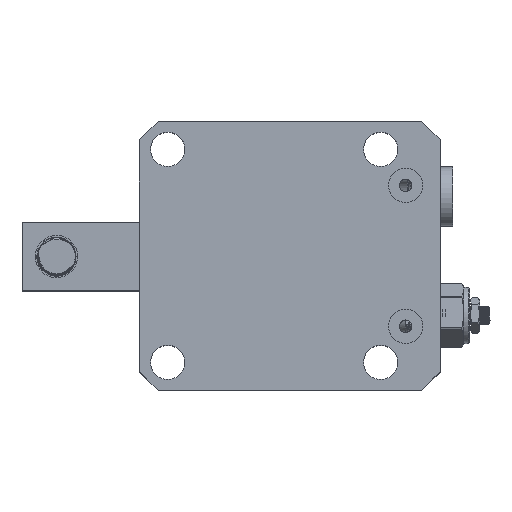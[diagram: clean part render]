
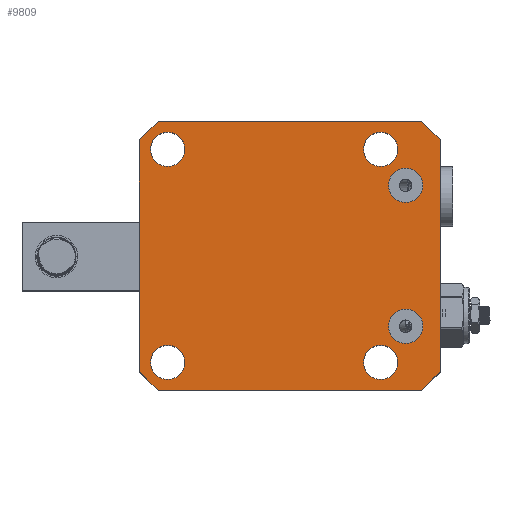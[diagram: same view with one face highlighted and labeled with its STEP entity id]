
A CAD part, top view. The second image highlights one B-rep face of the part: STEP entity #9809.
In plain terms, the highlighted planar face has unit normal (0, 0, 1).
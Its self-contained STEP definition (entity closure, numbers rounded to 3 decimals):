
#1459=FACE_BOUND('',#2298,.T.);
#1460=FACE_BOUND('',#2299,.T.);
#1461=FACE_BOUND('',#2300,.T.);
#1462=FACE_BOUND('',#2301,.T.);
#1463=FACE_BOUND('',#2302,.T.);
#1464=FACE_BOUND('',#2303,.T.);
#1539=PLANE('',#10732);
#1739=FACE_OUTER_BOUND('',#2297,.T.);
#2297=EDGE_LOOP('',(#7090,#7091,#7092,#7093,#7094,#7095,#7096,#7097));
#2298=EDGE_LOOP('',(#7098));
#2299=EDGE_LOOP('',(#7099));
#2300=EDGE_LOOP('',(#7100));
#2301=EDGE_LOOP('',(#7101));
#2302=EDGE_LOOP('',(#7102));
#2303=EDGE_LOOP('',(#7103));
#2927=LINE('',#15731,#3482);
#2928=LINE('',#15733,#3483);
#2929=LINE('',#15735,#3484);
#2930=LINE('',#15737,#3485);
#2931=LINE('',#15739,#3486);
#2932=LINE('',#15741,#3487);
#2933=LINE('',#15743,#3488);
#2934=LINE('',#15744,#3489);
#3482=VECTOR('',#11654,1000.);
#3483=VECTOR('',#11655,1000.);
#3484=VECTOR('',#11656,1000.);
#3485=VECTOR('',#11657,1000.);
#3486=VECTOR('',#11658,1000.);
#3487=VECTOR('',#11659,1000.);
#3488=VECTOR('',#11660,1000.);
#3489=VECTOR('',#11661,1000.);
#3981=CIRCLE('',#10692,5.5);
#3983=CIRCLE('',#10695,5.5);
#3985=CIRCLE('',#10698,5.5);
#3987=CIRCLE('',#10701,5.5);
#3989=CIRCLE('',#10704,5.5);
#3991=CIRCLE('',#10707,5.5);
#4290=VERTEX_POINT('',#14880);
#4292=VERTEX_POINT('',#14886);
#4294=VERTEX_POINT('',#14892);
#4296=VERTEX_POINT('',#14898);
#4298=VERTEX_POINT('',#14904);
#4300=VERTEX_POINT('',#14910);
#4344=VERTEX_POINT('',#15729);
#4345=VERTEX_POINT('',#15730);
#4346=VERTEX_POINT('',#15732);
#4347=VERTEX_POINT('',#15734);
#4348=VERTEX_POINT('',#15736);
#4349=VERTEX_POINT('',#15738);
#4350=VERTEX_POINT('',#15740);
#4351=VERTEX_POINT('',#15742);
#5403=EDGE_CURVE('',#4290,#4290,#3981,.T.);
#5406=EDGE_CURVE('',#4292,#4292,#3983,.T.);
#5409=EDGE_CURVE('',#4294,#4294,#3985,.T.);
#5412=EDGE_CURVE('',#4296,#4296,#3987,.T.);
#5415=EDGE_CURVE('',#4298,#4298,#3989,.T.);
#5418=EDGE_CURVE('',#4300,#4300,#3991,.T.);
#5488=EDGE_CURVE('',#4344,#4345,#2927,.T.);
#5489=EDGE_CURVE('',#4345,#4346,#2928,.T.);
#5490=EDGE_CURVE('',#4346,#4347,#2929,.T.);
#5491=EDGE_CURVE('',#4347,#4348,#2930,.T.);
#5492=EDGE_CURVE('',#4348,#4349,#2931,.T.);
#5493=EDGE_CURVE('',#4349,#4350,#2932,.T.);
#5494=EDGE_CURVE('',#4350,#4351,#2933,.T.);
#5495=EDGE_CURVE('',#4351,#4344,#2934,.T.);
#7090=ORIENTED_EDGE('',*,*,#5488,.T.);
#7091=ORIENTED_EDGE('',*,*,#5489,.T.);
#7092=ORIENTED_EDGE('',*,*,#5490,.T.);
#7093=ORIENTED_EDGE('',*,*,#5491,.T.);
#7094=ORIENTED_EDGE('',*,*,#5492,.T.);
#7095=ORIENTED_EDGE('',*,*,#5493,.T.);
#7096=ORIENTED_EDGE('',*,*,#5494,.T.);
#7097=ORIENTED_EDGE('',*,*,#5495,.T.);
#7098=ORIENTED_EDGE('',*,*,#5409,.T.);
#7099=ORIENTED_EDGE('',*,*,#5412,.T.);
#7100=ORIENTED_EDGE('',*,*,#5415,.T.);
#7101=ORIENTED_EDGE('',*,*,#5418,.T.);
#7102=ORIENTED_EDGE('',*,*,#5403,.F.);
#7103=ORIENTED_EDGE('',*,*,#5406,.F.);
#9809=ADVANCED_FACE('',(#1739,#1459,#1460,#1461,#1462,#1463,#1464),#1539,
 .T.);
#10692=AXIS2_PLACEMENT_3D('',#14882,#11556,#11557);
#10695=AXIS2_PLACEMENT_3D('',#14888,#11563,#11564);
#10698=AXIS2_PLACEMENT_3D('',#14894,#11570,#11571);
#10701=AXIS2_PLACEMENT_3D('',#14900,#11577,#11578);
#10704=AXIS2_PLACEMENT_3D('',#14906,#11584,#11585);
#10707=AXIS2_PLACEMENT_3D('',#14912,#11591,#11592);
#10732=AXIS2_PLACEMENT_3D('',#15728,#11652,#11653);
#11556=DIRECTION('center_axis',(0.,0.,1.));
#11557=DIRECTION('ref_axis',(1.,0.,0.));
#11563=DIRECTION('center_axis',(0.,0.,1.));
#11564=DIRECTION('ref_axis',(1.,0.,0.));
#11570=DIRECTION('center_axis',(0.,0.,
-1.));
#11571=DIRECTION('ref_axis',(1.,0.,0.));
#11577=DIRECTION('center_axis',(0.,0.,
-1.));
#11578=DIRECTION('ref_axis',(1.,0.,0.));
#11584=DIRECTION('center_axis',(0.,0.,-1.));
#11585=DIRECTION('ref_axis',(1.,0.,0.));
#11591=DIRECTION('center_axis',(0.,0.,-1.));
#11592=DIRECTION('ref_axis',(1.,0.,0.));
#11652=DIRECTION('center_axis',(0.,0.,1.));
#11653=DIRECTION('ref_axis',(1.,0.,0.));
#11654=DIRECTION('',(1.,0.,0.));
#11655=DIRECTION('',(0.707,0.707,0.));
#11656=DIRECTION('',(0.,1.,0.));
#11657=DIRECTION('',(-0.707,0.707,0.));
#11658=DIRECTION('',(-1.,0.,0.));
#11659=DIRECTION('',(-0.707,-0.707,0.));
#11660=DIRECTION('',(0.,-1.,0.));
#11661=DIRECTION('',(0.707,-0.707,0.));
#14880=CARTESIAN_POINT('',(36.5,-22.5,47.5));
#14882=CARTESIAN_POINT('Origin',(42.,-22.5,47.5));
#14886=CARTESIAN_POINT('',(36.5,22.5,47.5));
#14888=CARTESIAN_POINT('Origin',(42.,22.5,47.5));
#14892=CARTESIAN_POINT('',(-39.5,34.,47.5));
#14894=CARTESIAN_POINT('Origin',(-34.,34.,47.5));
#14898=CARTESIAN_POINT('',(28.5,34.,47.5));
#14900=CARTESIAN_POINT('Origin',(34.,34.,47.5));
#14904=CARTESIAN_POINT('',(28.5,-34.,47.5));
#14906=CARTESIAN_POINT('Origin',(34.,-34.,47.5));
#14910=CARTESIAN_POINT('',(-39.5,-34.,47.5));
#14912=CARTESIAN_POINT('Origin',(-34.,-34.,47.5));
#15728=CARTESIAN_POINT('Origin',(-43.,-43.,47.5));
#15729=CARTESIAN_POINT('',(-37.,-43.,47.5));
#15730=CARTESIAN_POINT('',(47.,-43.,47.5));
#15731=CARTESIAN_POINT('',(-43.,-43.,47.5));
#15732=CARTESIAN_POINT('',(53.,-37.,47.5));
#15733=CARTESIAN_POINT('',(47.,-43.,47.5));
#15734=CARTESIAN_POINT('',(53.,37.,47.5));
#15735=CARTESIAN_POINT('',(53.,-43.,47.5));
#15736=CARTESIAN_POINT('',(47.,43.,47.5));
#15737=CARTESIAN_POINT('',(53.,37.,47.5));
#15738=CARTESIAN_POINT('',(-37.,43.,47.5));
#15739=CARTESIAN_POINT('',(-43.,43.,47.5));
#15740=CARTESIAN_POINT('',(-43.,37.,47.5));
#15741=CARTESIAN_POINT('',(-37.,43.,47.5));
#15742=CARTESIAN_POINT('',(-43.,-37.,47.5));
#15743=CARTESIAN_POINT('',(-43.,-43.,47.5));
#15744=CARTESIAN_POINT('',(-43.,-37.,47.5));
